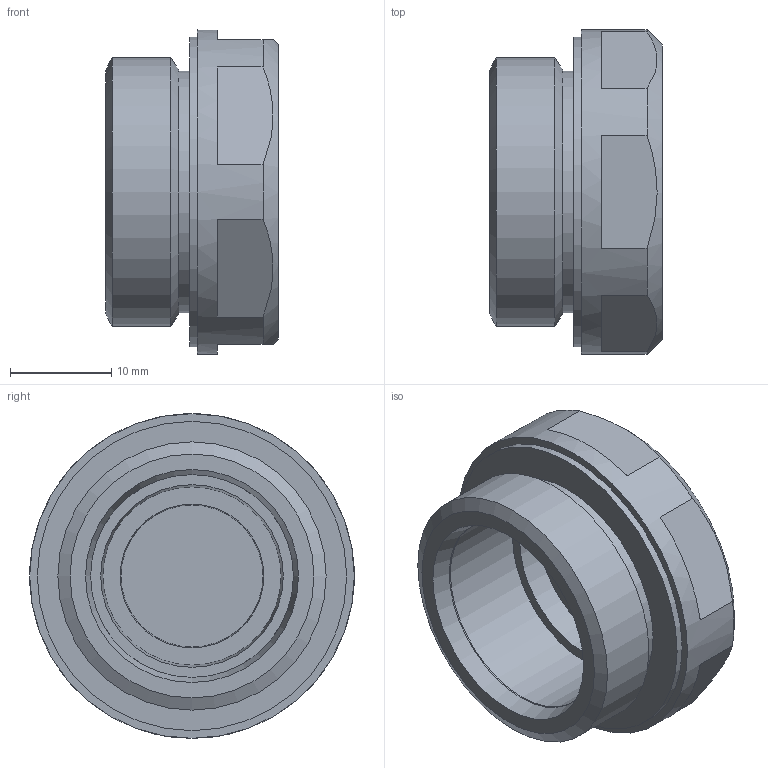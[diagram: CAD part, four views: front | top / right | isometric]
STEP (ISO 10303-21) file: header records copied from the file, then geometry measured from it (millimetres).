
FILE_DESCRIPTION( ( 'STEP AP203' ), '1' );
FILE_NAME( 'C:/Temp/Ganter_Step_05_03_2020/data/3_5/gn7404/gn7404_ni/Stainless Steel-Two-way breathable membrane GN 7404-NI-G3_4-1,2.stp', '2020-03-12T13:44:09', ( 'License CC BY-ND 4.0' ), ( 'CADENAS' ), ' ', 'PARTsolutions', ' ' );
FILE_SCHEMA( ( 'CONFIG_CONTROL_DESIGN' ) );
Length unit declared in the file: millimetre
Products named in the file (1): _Stainless Steel-Two-way breathable membrane GN 7404-NI-G3/4-1,2
Bounding box: 17 x 32 x 32 mm (x, y, z)
Volume: 6204.4 mm3; surface area: 4777.3 mm2
Topology: 1 solids, 1 shells, 88 faces, 295 edges, 192 vertices
Faces by surface type: cylinder 50, plane 23, cone 9, torus 4, sphere 2
Full cylindrical faces by diameter (mm): 1.6 x19, 18 x1, 19.7 x1, 20 x1, 23.8 x1, 26.441 x1, 30.5 x1, 32 x1
Entity records: 4222 total; most frequent: CARTESIAN_POINT 2039, ORIENTED_EDGE 444, DIRECTION 360, EDGE_CURVE 222, EDGE_LOOP 174, VERTEX_POINT 162, AXIS2_PLACEMENT_3D 159, FACE_OUTER_BOUND 120
